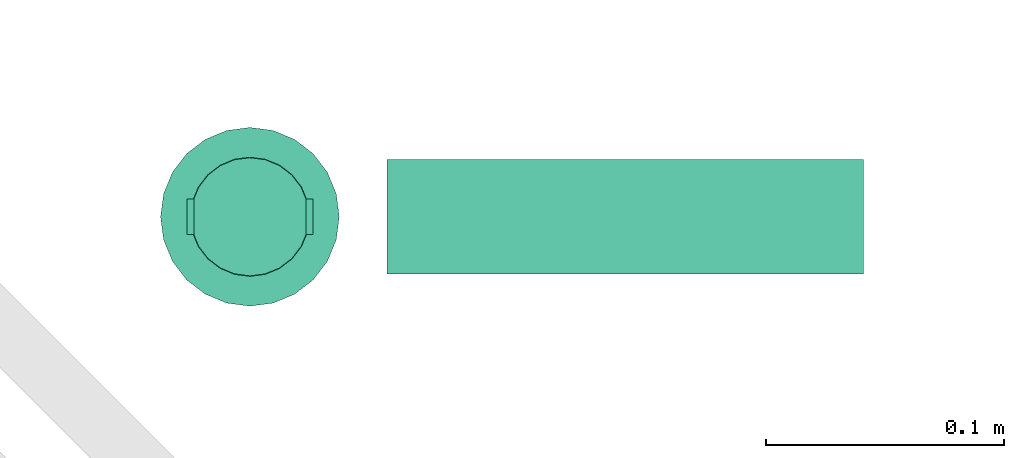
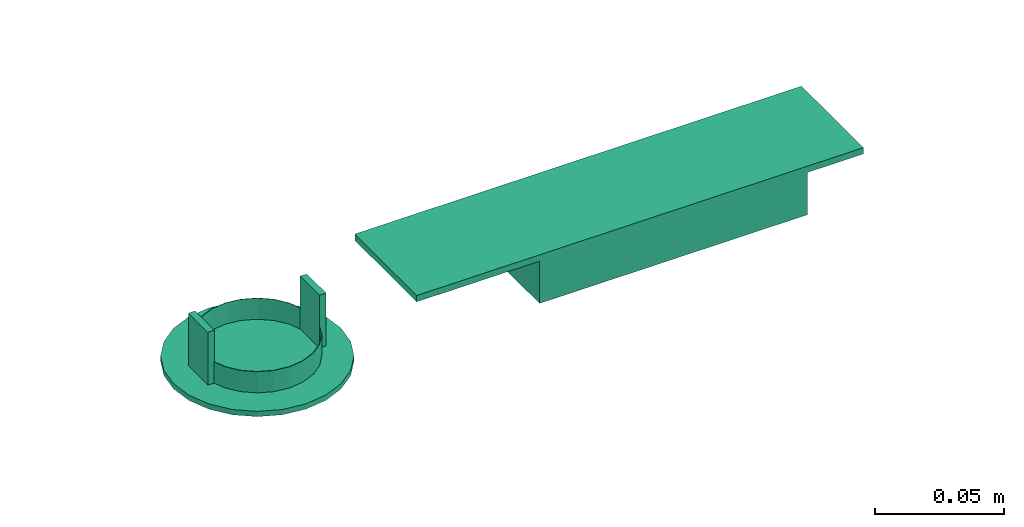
# One storey, part 19 of 51: 1 flow terminal.
"""IFC2X3 building model written with IfcOpenShell, lengths in millimetres."""

from ifc_helpers import new_model, entity, si_unit, converted_unit, derived_unit, direction, frame, origin_with_axes, place, context, subcontext, project, spatial, open_shell, surface_model, source, transform, mapped, type_object, element, save


model = new_model("IFC2X3")

# Units and contexts
model_context = context("Model", 3, precision=0.01, world=frame((0.0, 4.29681676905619e-09, 0.0)), true_north=direction((4.01073788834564e-13, 1.0)))
plan_context = context("Plan", 3, precision=0.01, world=frame((0.0, 4.29681676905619e-09, 0.0)), true_north=direction((4.01073788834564e-13, 1.0)))
body_context = subcontext(model_context, "Body", "Model", "MODEL_VIEW")
ifc_project = project(units=[converted_unit("PLANEANGLEUNIT", "DEGREE", entity("IfcPositiveLengthMeasure", 0.0174532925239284), si_unit("PLANEANGLEUNIT", "RADIAN"), dimensions=[0, 0, 0, 0, 0, 0, 0]), si_unit("AREAUNIT", "SQUARE_METRE"), si_unit("LENGTHUNIT", "METRE", prefix="MILLI"), si_unit("MASSUNIT", "GRAM", prefix="KILO"), si_unit("POWERUNIT", "WATT"), si_unit("PRESSUREUNIT", "PASCAL"), si_unit("FORCEUNIT", "NEWTON", prefix="KILO"), si_unit("ELECTRICVOLTAGEUNIT", "VOLT"), si_unit("ELECTRICCURRENTUNIT", "AMPERE"), si_unit("THERMODYNAMICTEMPERATUREUNIT", "DEGREE_CELSIUS"), si_unit("TIMEUNIT", "SECOND"), si_unit("VOLUMEUNIT", "CUBIC_METRE"), derived_unit("LINEARVELOCITYUNIT", [(si_unit("LENGTHUNIT", "METRE"), 1), (si_unit("TIMEUNIT", "SECOND"), -1)]), derived_unit("VOLUMETRICFLOWRATEUNIT", [(si_unit("VOLUMEUNIT", "CUBIC_METRE"), 1), (si_unit("TIMEUNIT", "SECOND"), -1)]), derived_unit("THERMALTRANSMITTANCEUNIT", [(si_unit("POWERUNIT", "WATT"), 1), (si_unit("THERMODYNAMICTEMPERATUREUNIT", "KELVIN"), -1), (si_unit("AREAUNIT", "SQUARE_METRE"), -1)]), derived_unit("SOUNDPRESSUREUNIT", [(si_unit("PRESSUREUNIT", "PASCAL"), 1)])], contexts=[model_context, plan_context])

# Site, building, storey
site_placement = place(None, frame((0.0, -4.29681676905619e-09, 0.0), z_axis=(0.0, 0.0, 1.0), x_axis=(1.0, 0.0, 0.0)))
site = spatial("IfcSite", under=ifc_project, at=site_placement, Name="ENGM", CompositionType="ELEMENT")
building_placement = place(site_placement, frame((0.0, 4.29681676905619e-09, 0.0), z_axis=(0.0, 0.0, 1.0), x_axis=(1.0, 0.0, 0.0)))
building = spatial("IfcBuilding", under=site, at=building_placement, Name="TI", CompositionType="ELEMENT")
storey_placement = place(building_placement, frame((0.0, 0.0, 210900.0), z_axis=(0.0, 0.0, 1.0), x_axis=(1.0, 0.0, 0.0)))
storey = spatial("IfcBuildingStorey", under=building, at=storey_placement, Name="Nivå F", CompositionType="ELEMENT", Elevation=210900.0)

# Flow terminal
light_fixture_type = type_object("IfcLightFixtureType", Name="IB7405 Zumtobel Resclite C Antipanic ED NDA WH", PredefinedType="NOTDEFINED")
shared_shape = source(origin_with_axes(), body_context, "Body", "SurfaceModel", [
    surface_model("IfcShellBasedSurfaceModel", [(6.47048, -24.14815, -4.9), (12.5, -21.65064, -4.9), (17.67767, -17.67767, -4.9), (24.14815, -6.47048, -4.9), (-24.14815, -6.47048, -4.9), (21.65064, -12.5, -4.9), (-21.65064, 12.5, -4.9), (0.0, -25.0, -4.9), (-12.5, -21.65064, -4.9), (-6.47048, -24.14815, -4.9), (-17.67767, -17.67767, -4.9), (-21.65064, -12.5, -4.9), (25.0, 0.0, -4.9), (24.14815, 6.47048, -4.9), (21.65064, 12.5, -4.9), (17.67767, 17.67767, -4.9), (12.5, 21.65064, -4.9), (6.47048, 24.14815, -4.9), (0.0, 25.0, -4.9), (-25.0, 0.0, -4.9), (-24.14815, 6.47048, -4.9), (-12.5, 21.65064, -4.9), (-17.67767, 17.67767, -4.9), (-6.47048, 24.14815, -4.9), (0.0, 25.0, -5.1), (6.47048, 24.14815, -5.1), (12.5, 21.65064, -5.1), (-21.65064, 12.5, -5.1), (17.67767, 17.67767, -5.1), (21.65064, 12.5, -5.1), (24.14815, 6.47048, -5.1), (-12.5, 21.65064, -5.1), (-17.67767, 17.67767, -5.1), (-6.47048, 24.14815, -5.1), (-25.0, 0.0, -5.1), (-24.14815, 6.47048, -5.1), (-24.14815, -6.47048, -5.1), (24.14815, -6.47048, -5.1), (6.47048, -24.14815, -5.1), (21.65064, -12.5, -5.1), (17.67767, -17.67767, -5.1), (12.5, -21.65064, -5.1), (-12.5, -21.65064, -5.1), (-17.67767, -17.67767, -5.1), (-21.65064, -12.5, -5.1), (0.0, -25.0, -5.1), (-6.47048, -24.14815, -5.1), (25.0, 0.0, -5.1), (232.5, -24.0, 0.0), (232.5, 24.0, 0.0), (232.5, 24.0, 20.0), (232.5, -24.0, 20.0), (112.5, -24.0, 20.0), (112.5, 24.0, 20.0), (112.5, 24.0, 0.0), (112.5, -24.0, 0.0), (57.5, 24.0, 23.0), (57.5, -24.0, 23.0), (257.5, 24.0, 23.0), (257.5, -24.0, 23.0), (257.5, 24.0, 20.0), (257.5, -24.0, 20.0), (57.5, 24.0, 20.0), (57.5, -24.0, 20.0), (23.5, -7.5, 25.0), (26.5, -7.5, 25.0), (23.5, 7.5, 25.0), (26.5, 7.5, 25.0), (23.5, 7.5, 0.0), (26.5, 7.5, 0.0), (23.5, -7.5, 0.0), (26.5, -7.5, 0.0), (-26.5, -7.5, 25.0), (-23.5, -7.5, 25.0), (-26.5, 7.5, 25.0), (-23.5, 7.5, 25.0), (-26.5, 7.5, 0.0), (-23.5, 7.5, 0.0), (-26.5, -7.5, 0.0), (-23.5, -7.5, 0.0), (-20.22543, -14.69463, -5.0), (-25.0, 0.0, -5.0), (7.72542, -23.77641, -5.0), (-7.72542, -23.77641, -5.0), (20.22543, -14.69463, -5.0), (-7.72542, 23.77641, -5.0), (7.72542, 23.77641, -5.0), (20.22543, 14.69463, -5.0), (25.0, 0.0, -5.0), (-20.22543, 14.69463, -5.0), (0.0, -37.5, -2.5), (18.75, -32.47595, -2.5), (32.47595, -18.75, -2.5), (-18.75, -32.47595, -2.5), (-37.5, 0.0, -2.5), (-32.47595, -18.75, -2.5), (18.75, 32.47595, -2.5), (32.47595, 18.75, -2.5), (0.0, 37.5, -2.5), (-32.47595, 18.75, -2.5), (-18.75, 32.47595, -2.5), (37.5, 0.0, -2.5), (22.61271, 7.34732, -5.0), (34.29463, 11.96261, -2.5), (25.61298, 25.61298, -2.5), (13.97542, 19.23552, -5.0), (-13.97542, 19.23552, -5.0), (-34.29463, 11.96261, -2.5), (-22.61271, 7.34732, -5.0), (-25.61298, 25.61298, -2.5), (0.0, 23.77641, -5.0), (9.375, 34.98798, -2.5), (-9.375, 34.98798, -2.5), (-22.61271, -7.34732, -5.0), (-34.29463, -11.96261, -2.5), (-25.61298, -25.61298, -2.5), (-13.97542, -19.23552, -5.0), (13.97542, -19.23552, -5.0), (34.29463, -11.96261, -2.5), (22.61271, -7.34732, -5.0), (25.61298, -25.61298, -2.5), (0.0, -23.77641, -5.0), (-9.375, -34.98798, -2.5), (9.375, -34.98798, -2.5), (12.5, -21.65064, 10.0), (17.67767, -17.67767, 10.0), (12.4, -21.47743, 10.0), (6.41871, -23.95496, 10.0), (0.0, -24.8, 10.0), (6.47048, -24.14815, 10.0), (0.0, -25.0, 10.0), (17.53625, -17.53625, 10.0), (24.14815, -6.47048, 10.0), (24.8, 0.0, 10.0), (23.95496, -6.41871, 10.0), (25.0, 0.0, 10.0), (21.65064, -12.5, 10.0), (21.47743, -12.4, 10.0), (-6.41871, -23.95496, 10.0), (-6.47048, -24.14815, 10.0), (-12.4, -21.47743, 10.0), (-17.67767, -17.67767, 10.0), (-12.5, -21.65064, 10.0), (-17.53625, -17.53625, 10.0), (-21.47743, -12.4, 10.0), (-21.65064, -12.5, 10.0), (-23.95496, -6.41871, 10.0), (-24.14815, -6.47048, 10.0), (-24.8, 0.0, 10.0), (-25.0, 0.0, 10.0), (24.14815, 6.47048, 10.0), (23.95496, 6.41871, 10.0), (21.47743, 12.4, 10.0), (21.65064, 12.5, 10.0), (17.53625, 17.53625, 10.0), (17.67767, 17.67767, 10.0), (12.5, 21.65064, 10.0), (12.4, 21.47743, 10.0), (6.41871, 23.95496, 10.0), (6.47048, 24.14815, 10.0), (0.0, 24.8, 10.0), (0.0, 25.0, 10.0), (-21.65064, 12.5, 10.0), (-21.47743, 12.4, 10.0), (-17.67767, 17.67767, 10.0), (-17.53625, 17.53625, 10.0), (-24.14815, 6.47048, 10.0), (-23.95496, 6.41871, 10.0), (-6.41871, 23.95496, 10.0), (-6.47048, 24.14815, 10.0), (-12.4, 21.47743, 10.0), (-12.5, 21.65064, 10.0), (12.5, 21.65064, 0.0), (17.67767, 17.67767, 0.0), (12.4, 21.47743, 0.0), (6.41871, 23.95496, 0.0), (0.0, 24.8, 0.0), (6.47048, 24.14815, 0.0), (0.0, 25.0, 0.0), (17.53625, 17.53625, 0.0), (24.14815, 6.47048, 0.0), (24.8, 0.0, 0.0), (23.95496, 6.41871, 0.0), (25.0, 0.0, 0.0), (21.65064, 12.5, 0.0), (21.47743, 12.4, 0.0), (-6.41871, 23.95496, 0.0), (-6.47048, 24.14815, 0.0), (-12.4, 21.47743, 0.0), (-17.67767, 17.67767, 0.0), (-12.5, 21.65064, 0.0), (-17.53625, 17.53625, 0.0), (-21.47743, 12.4, 0.0), (-21.65064, 12.5, 0.0), (-23.95496, 6.41871, 0.0), (-24.14815, 6.47048, 0.0), (-24.8, 0.0, 0.0), (-25.0, 0.0, 0.0), (24.14815, -6.47048, 0.0), (23.95496, -6.41871, 0.0), (21.47743, -12.4, 0.0), (21.65064, -12.5, 0.0), (17.53625, -17.53625, 0.0), (17.67767, -17.67767, 0.0), (12.5, -21.65064, 0.0), (12.4, -21.47743, 0.0), (6.41871, -23.95496, 0.0), (6.47048, -24.14815, 0.0), (0.0, -24.8, 0.0), (0.0, -25.0, 0.0), (-21.65064, -12.5, 0.0), (-21.47743, -12.4, 0.0), (-17.67767, -17.67767, 0.0), (-17.53625, -17.53625, 0.0), (-24.14815, -6.47048, 0.0), (-23.95496, -6.41871, 0.0), (-6.41871, -23.95496, 0.0), (-6.47048, -24.14815, 0.0), (-12.4, -21.47743, 0.0), (-12.5, -21.65064, 0.0), (9.70571, -36.22222, 0.0), (18.75, -32.47595, 0.0), (26.5165, -26.5165, 0.0), (32.47595, -18.75, 0.0), (36.22222, -9.70571, 0.0), (0.0, -37.5, 0.0), (36.22222, 9.70571, 0.0), (-36.22222, -9.70571, 0.0), (-18.75, -32.47595, 0.0), (-9.70571, -36.22222, 0.0), (-26.5165, -26.5165, 0.0), (-32.47595, -18.75, 0.0), (37.5, 0.0, 0.0), (32.47595, 18.75, 0.0), (26.5165, 26.5165, 0.0), (0.0, 37.5, 0.0), (9.70571, 36.22222, 0.0), (18.75, 32.47595, 0.0), (-26.5165, 26.5165, 0.0), (-36.22222, 9.70571, 0.0), (-32.47595, 18.75, 0.0), (-37.5, 0.0, 0.0), (-9.70571, 36.22222, 0.0), (-18.75, 32.47595, 0.0), (26.5165, 26.5165, -2.5), (18.65, 32.30275, -2.5), (9.65395, 36.02903, -2.5), (0.0, 37.3, -2.5), (9.70571, 36.22222, -2.5), (26.37508, 26.37508, -2.5), (36.22222, 9.70571, -2.5), (37.3, 0.0, -2.5), (36.02903, 9.65395, -2.5), (32.30275, 18.65, -2.5), (-9.65395, 36.02903, -2.5), (-9.70571, 36.22222, -2.5), (-18.65, 32.30275, -2.5), (-26.5165, 26.5165, -2.5), (-26.37508, 26.37508, -2.5), (-32.30275, 18.65, -2.5), (-36.02903, 9.65395, -2.5), (-36.22222, 9.70571, -2.5), (-37.3, 0.0, -2.5), (36.22222, -9.70571, -2.5), (36.02903, -9.65395, -2.5), (32.30275, -18.65, -2.5), (26.37508, -26.37508, -2.5), (26.5165, -26.5165, -2.5), (18.65, -32.30275, -2.5), (9.65395, -36.02903, -2.5), (9.70571, -36.22222, -2.5), (0.0, -37.3, -2.5), (-32.30275, -18.65, -2.5), (-26.5165, -26.5165, -2.5), (-26.37508, -26.37508, -2.5), (-36.22222, -9.70571, -2.5), (-36.02903, -9.65395, -2.5), (-9.65395, -36.02903, -2.5), (-9.70571, -36.22222, -2.5), (-18.65, -32.30275, -2.5), (26.37508, -26.37508, -0.2), (18.65, -32.30275, -0.2), (9.65395, -36.02903, -0.2), (0.0, -37.3, -0.2), (36.02903, -9.65395, -0.2), (32.30275, -18.65, -0.2), (36.02903, 9.65395, -0.2), (-9.65395, -36.02903, -0.2), (-18.65, -32.30275, -0.2), (-32.30275, -18.65, -0.2), (-26.37508, -26.37508, -0.2), (-37.3, 0.0, -0.2), (-36.02903, -9.65395, -0.2), (37.3, 0.0, -0.2), (26.37508, 26.37508, -0.2), (32.30275, 18.65, -0.2), (0.0, 37.3, -0.2), (9.65395, 36.02903, -0.2), (18.65, 32.30275, -0.2), (-9.65395, 36.02903, -0.2), (-32.30275, 18.65, -0.2), (-26.37508, 26.37508, -0.2), (-36.02903, 9.65395, -0.2), (-18.65, 32.30275, -0.2)], [open_shell([[[0, 1, 2]], [[0, 2, 3]], [[0, 3, 4]], [[3, 2, 5]], [[6, 4, 3]], [[7, 8, 9]], [[7, 0, 8]], [[10, 4, 11]], [[10, 8, 0]], [[4, 10, 0]], [[3, 12, 6]], [[13, 14, 15]], [[13, 15, 16]], [[16, 17, 18]], [[13, 16, 6]], [[6, 16, 18]], [[19, 6, 20]], [[4, 6, 19]], [[6, 21, 22]], [[21, 6, 23]], [[18, 23, 6]], [[6, 12, 13]], [[24, 25, 26]], [[27, 24, 26]], [[28, 29, 30]], [[28, 30, 26]], [[27, 26, 30]], [[31, 27, 32]], [[27, 31, 33]], [[27, 34, 35]], [[27, 33, 24]], [[27, 36, 34]], [[27, 30, 37]], [[36, 27, 37]], [[38, 37, 39]], [[40, 41, 38]], [[40, 38, 39]], [[42, 37, 38]], [[36, 43, 44]], [[36, 37, 43]], [[42, 45, 46]], [[43, 37, 42]], [[38, 45, 42]], [[37, 30, 47]], [[36, 4, 34]], [[44, 11, 36]], [[8, 43, 42]], [[44, 43, 10]], [[9, 42, 46]], [[36, 11, 4]], [[4, 19, 34]], [[9, 8, 42]], [[10, 43, 8]], [[10, 11, 44]], [[7, 9, 46]], [[46, 45, 7]], [[38, 0, 45]], [[41, 1, 38]], [[5, 40, 39]], [[41, 40, 2]], [[3, 39, 37]], [[41, 2, 1]], [[1, 0, 38]], [[12, 3, 37]], [[5, 39, 3]], [[5, 2, 40]], [[47, 12, 37]], [[45, 0, 7]], [[30, 13, 47]], [[29, 14, 30]], [[16, 28, 26]], [[29, 28, 15]], [[17, 26, 25]], [[30, 14, 13]], [[13, 12, 47]], [[17, 16, 26]], [[15, 28, 16]], [[15, 14, 29]], [[18, 17, 25]], [[25, 24, 18]], [[33, 23, 24]], [[31, 21, 33]], [[6, 32, 27]], [[31, 32, 22]], [[20, 27, 35]], [[31, 22, 21]], [[21, 23, 33]], [[19, 20, 35]], [[6, 27, 20]], [[6, 22, 32]], [[34, 19, 35]], [[24, 23, 18]], [[48, 49, 50]], [[50, 51, 48]], [[52, 53, 54]], [[54, 55, 52]], [[50, 49, 54]], [[54, 53, 50]], [[51, 50, 53]], [[53, 52, 51]], [[48, 51, 52]], [[52, 55, 48]], [[49, 48, 55]], [[55, 54, 49]], [[56, 57, 58]], [[59, 58, 57]], [[60, 61, 62]], [[63, 62, 61]], [[59, 57, 63]], [[63, 61, 59]], [[58, 59, 61]], [[61, 60, 58]], [[56, 58, 60]], [[60, 62, 56]], [[57, 56, 62]], [[62, 63, 57]], [[64, 65, 66]], [[67, 66, 65]], [[68, 69, 70]], [[71, 70, 69]], [[67, 65, 71]], [[71, 69, 67]], [[66, 67, 68]], [[69, 68, 67]], [[64, 66, 68]], [[68, 70, 64]], [[65, 64, 71]], [[70, 71, 64]], [[72, 73, 74]], [[75, 74, 73]], [[76, 77, 78]], [[79, 78, 77]], [[75, 73, 79]], [[79, 77, 75]], [[74, 75, 76]], [[77, 76, 75]], [[72, 74, 76]], [[76, 78, 72]], [[73, 72, 79]], [[78, 79, 72]], [[80, 81, 82]], [[80, 82, 83]], [[82, 81, 84]], [[81, 85, 84]], [[86, 84, 85]], [[84, 87, 88]], [[84, 86, 87]], [[85, 81, 89]], [[90, 91, 92]], [[90, 92, 93]], [[93, 94, 95]], [[96, 94, 93]], [[93, 92, 96]], [[97, 96, 92]], [[98, 94, 96]], [[99, 98, 100]], [[99, 94, 98]], [[92, 101, 97]], [[102, 101, 88]], [[97, 103, 102]], [[104, 87, 105]], [[97, 102, 87]], [[101, 102, 103]], [[100, 85, 106]], [[97, 87, 104]], [[105, 86, 96]], [[105, 96, 104]], [[94, 107, 108]], [[99, 108, 107]], [[108, 81, 94]], [[89, 99, 109]], [[110, 111, 86]], [[85, 100, 112]], [[111, 110, 98]], [[106, 89, 109]], [[89, 108, 99]], [[100, 106, 109]], [[85, 112, 110]], [[110, 112, 98]], [[111, 96, 86]], [[113, 94, 81]], [[95, 114, 113]], [[115, 80, 116]], [[95, 113, 80]], [[94, 113, 114]], [[91, 82, 117]], [[95, 80, 115]], [[116, 83, 93]], [[116, 93, 115]], [[101, 118, 119]], [[92, 119, 118]], [[119, 88, 101]], [[84, 92, 120]], [[121, 122, 83]], [[82, 91, 123]], [[122, 121, 90]], [[117, 84, 120]], [[84, 119, 92]], [[91, 117, 120]], [[82, 123, 121]], [[121, 123, 90]], [[122, 93, 83]], [[124, 125, 126]], [[124, 126, 127]], [[128, 129, 127]], [[129, 128, 130]], [[127, 129, 124]], [[126, 125, 131]], [[132, 133, 134]], [[133, 132, 135]], [[132, 134, 136]], [[131, 136, 137]], [[136, 131, 125]], [[137, 136, 134]], [[130, 138, 139]], [[139, 138, 140]], [[141, 142, 143]], [[140, 142, 139]], [[140, 143, 142]], [[130, 128, 138]], [[144, 145, 141]], [[145, 144, 146]], [[144, 141, 143]], [[147, 146, 148]], [[146, 147, 145]], [[147, 148, 149]], [[135, 150, 151]], [[151, 150, 152]], [[152, 153, 154]], [[153, 152, 150]], [[154, 153, 155]], [[155, 156, 157]], [[157, 156, 158]], [[158, 159, 160]], [[159, 158, 156]], [[160, 159, 161]], [[157, 154, 155]], [[162, 163, 164]], [[164, 163, 165]], [[163, 162, 166]], [[149, 167, 166]], [[166, 167, 163]], [[149, 148, 167]], [[168, 161, 169]], [[168, 169, 170]], [[165, 171, 164]], [[165, 170, 171]], [[171, 170, 169]], [[160, 161, 168]], [[151, 133, 135]], [[172, 173, 174]], [[172, 174, 175]], [[176, 177, 175]], [[177, 176, 178]], [[175, 177, 172]], [[174, 173, 179]], [[180, 181, 182]], [[181, 180, 183]], [[180, 182, 184]], [[179, 184, 185]], [[184, 179, 173]], [[185, 184, 182]], [[178, 186, 187]], [[187, 186, 188]], [[189, 190, 191]], [[188, 190, 187]], [[188, 191, 190]], [[178, 176, 186]], [[192, 193, 189]], [[193, 192, 194]], [[192, 189, 191]], [[195, 194, 196]], [[194, 195, 193]], [[195, 196, 197]], [[183, 198, 199]], [[199, 198, 200]], [[200, 201, 202]], [[201, 200, 198]], [[202, 201, 203]], [[203, 204, 205]], [[205, 204, 206]], [[206, 207, 208]], [[207, 206, 204]], [[208, 207, 209]], [[205, 202, 203]], [[210, 211, 212]], [[212, 211, 213]], [[211, 210, 214]], [[197, 215, 214]], [[214, 215, 211]], [[197, 196, 215]], [[216, 209, 217]], [[216, 217, 218]], [[213, 219, 212]], [[213, 218, 219]], [[219, 218, 217]], [[208, 209, 216]], [[199, 181, 183]], [[214, 147, 197]], [[210, 145, 214]], [[142, 212, 219]], [[210, 212, 141]], [[139, 219, 217]], [[214, 145, 147]], [[147, 149, 197]], [[139, 142, 219]], [[141, 212, 142]], [[141, 145, 210]], [[130, 139, 217]], [[217, 209, 130]], [[207, 129, 209]], [[204, 124, 207]], [[136, 203, 201]], [[204, 203, 125]], [[132, 201, 198]], [[204, 125, 124]], [[124, 129, 207]], [[135, 132, 198]], [[136, 201, 132]], [[136, 125, 203]], [[183, 135, 198]], [[209, 129, 130]], [[180, 150, 183]], [[184, 153, 180]], [[156, 173, 172]], [[184, 173, 155]], [[159, 172, 177]], [[180, 153, 150]], [[150, 135, 183]], [[159, 156, 172]], [[155, 173, 156]], [[155, 153, 184]], [[161, 159, 177]], [[177, 178, 161]], [[187, 169, 178]], [[190, 171, 187]], [[162, 189, 193]], [[190, 189, 164]], [[166, 193, 195]], [[190, 164, 171]], [[171, 169, 187]], [[149, 166, 195]], [[162, 193, 166]], [[162, 164, 189]], [[197, 149, 195]], [[178, 169, 161]], [[196, 146, 215]], [[215, 144, 211]], [[218, 213, 140]], [[143, 213, 211]], [[216, 218, 138]], [[146, 144, 215]], [[196, 148, 146]], [[218, 140, 138]], [[140, 213, 143]], [[211, 144, 143]], [[216, 138, 128]], [[128, 208, 216]], [[208, 127, 206]], [[206, 126, 205]], [[200, 202, 137]], [[131, 202, 205]], [[199, 200, 134]], [[126, 131, 205]], [[206, 127, 126]], [[199, 134, 133]], [[134, 200, 137]], [[202, 131, 137]], [[199, 133, 181]], [[128, 127, 208]], [[181, 151, 182]], [[182, 152, 185]], [[174, 179, 157]], [[154, 179, 185]], [[175, 174, 158]], [[151, 152, 182]], [[181, 133, 151]], [[174, 157, 158]], [[157, 179, 154]], [[185, 152, 154]], [[175, 158, 160]], [[160, 176, 175]], [[176, 168, 186]], [[186, 170, 188]], [[192, 191, 163]], [[165, 191, 188]], [[194, 192, 167]], [[170, 165, 188]], [[186, 168, 170]], [[194, 167, 148]], [[167, 192, 163]], [[191, 165, 163]], [[194, 148, 196]], [[160, 168, 176]], [[220, 221, 222]], [[220, 222, 223]], [[220, 224, 225]], [[224, 220, 223]], [[226, 227, 224]], [[225, 228, 229]], [[225, 224, 228]], [[224, 230, 228]], [[224, 231, 230]], [[227, 231, 224]], [[224, 232, 226]], [[226, 233, 234]], [[226, 234, 235]], [[236, 235, 234]], [[236, 234, 237]], [[238, 227, 235]], [[239, 238, 240]], [[238, 239, 241]], [[238, 242, 243]], [[241, 227, 238]], [[235, 242, 238]], [[235, 227, 226]], [[96, 244, 245]], [[96, 245, 246]], [[247, 248, 246]], [[248, 247, 98]], [[246, 248, 96]], [[245, 244, 249]], [[250, 251, 252]], [[251, 250, 101]], [[250, 252, 97]], [[249, 97, 253]], [[97, 249, 244]], [[253, 97, 252]], [[98, 254, 255]], [[255, 254, 256]], [[257, 100, 258]], [[256, 100, 255]], [[256, 258, 100]], [[98, 247, 254]], [[259, 99, 257]], [[99, 259, 260]], [[259, 257, 258]], [[261, 260, 262]], [[260, 261, 99]], [[261, 262, 94]], [[101, 263, 264]], [[264, 263, 265]], [[265, 92, 266]], [[92, 265, 263]], [[266, 92, 267]], [[267, 91, 268]], [[268, 91, 269]], [[269, 270, 271]], [[270, 269, 91]], [[271, 270, 90]], [[268, 266, 267]], [[95, 272, 273]], [[273, 272, 274]], [[272, 95, 275]], [[94, 276, 275]], [[275, 276, 272]], [[94, 262, 276]], [[277, 90, 278]], [[277, 278, 279]], [[274, 93, 273]], [[274, 279, 93]], [[93, 279, 278]], [[271, 90, 277]], [[264, 251, 101]], [[275, 227, 94]], [[95, 231, 275]], [[228, 273, 93]], [[95, 273, 230]], [[229, 93, 278]], [[275, 231, 227]], [[227, 241, 94]], [[229, 228, 93]], [[230, 273, 228]], [[230, 231, 95]], [[225, 229, 278]], [[278, 90, 225]], [[270, 220, 90]], [[91, 221, 270]], [[223, 267, 92]], [[91, 267, 222]], [[224, 92, 263]], [[91, 222, 221]], [[221, 220, 270]], [[232, 224, 263]], [[223, 92, 224]], [[223, 222, 267]], [[101, 232, 263]], [[90, 220, 225]], [[250, 226, 101]], [[97, 233, 250]], [[237, 244, 96]], [[97, 244, 234]], [[236, 96, 248]], [[250, 233, 226]], [[226, 232, 101]], [[236, 237, 96]], [[234, 244, 237]], [[234, 233, 97]], [[235, 236, 248]], [[248, 98, 235]], [[255, 242, 98]], [[100, 243, 255]], [[240, 257, 99]], [[100, 257, 238]], [[239, 99, 261]], [[100, 238, 243]], [[243, 242, 255]], [[241, 239, 261]], [[240, 99, 239]], [[240, 238, 257]], [[94, 241, 261]], [[98, 242, 235]], [[280, 281, 282]], [[280, 282, 283]], [[284, 280, 283]], [[285, 280, 284]], [[286, 284, 283]], [[287, 288, 283]], [[289, 283, 288]], [[290, 289, 288]], [[291, 283, 289]], [[292, 291, 289]], [[286, 293, 284]], [[294, 295, 286]], [[296, 294, 286]], [[296, 297, 298]], [[294, 296, 298]], [[299, 296, 286]], [[300, 301, 302]], [[286, 291, 302]], [[303, 299, 301]], [[302, 301, 299]], [[302, 299, 286]], [[283, 291, 286]], [[262, 292, 276]], [[276, 289, 272]], [[279, 274, 288]], [[290, 274, 272]], [[277, 279, 287]], [[292, 289, 276]], [[262, 291, 292]], [[279, 288, 287]], [[288, 274, 290]], [[272, 289, 290]], [[277, 287, 283]], [[283, 271, 277]], [[271, 282, 269]], [[269, 281, 268]], [[265, 266, 285]], [[280, 266, 268]], [[264, 265, 284]], [[281, 280, 268]], [[269, 282, 281]], [[264, 284, 293]], [[284, 265, 285]], [[266, 280, 285]], [[264, 293, 251]], [[283, 282, 271]], [[251, 286, 252]], [[252, 295, 253]], [[245, 249, 298]], [[294, 249, 253]], [[246, 245, 297]], [[286, 295, 252]], [[251, 293, 286]], [[245, 298, 297]], [[298, 249, 294]], [[253, 295, 294]], [[246, 297, 296]], [[296, 247, 246]], [[247, 299, 254]], [[254, 303, 256]], [[259, 258, 300]], [[301, 258, 256]], [[260, 259, 302]], [[303, 301, 256]], [[254, 299, 303]], [[260, 302, 291]], [[302, 259, 300]], [[258, 301, 300]], [[260, 291, 262]], [[296, 299, 247]]])]),
])
flow_terminal_placement = place(storey_placement, frame((606354.0, 697828.0, 2550.0), z_axis=(0.0, 0.0, 1.0), x_axis=(1.0, 0.0, 0.0)))
element("IfcFlowTerminal", 1, at=flow_terminal_placement, inside=storey, type_object=light_fixture_type, Name="IB7405 Zumtobel Resclite C Antipanic ED NDA WH", context=body_context, shape_type="MappedRepresentation", body=[
    mapped(shared_shape, transform((0.0, 0.0, 0.0), scale=1.0)),
])

save(model, "model.ifc")
